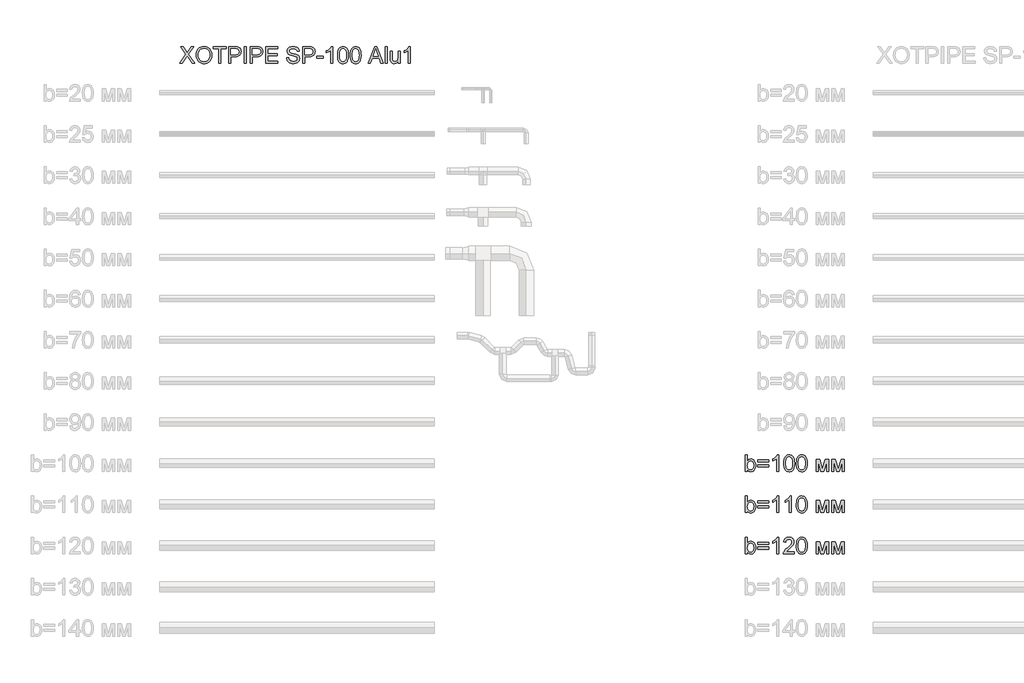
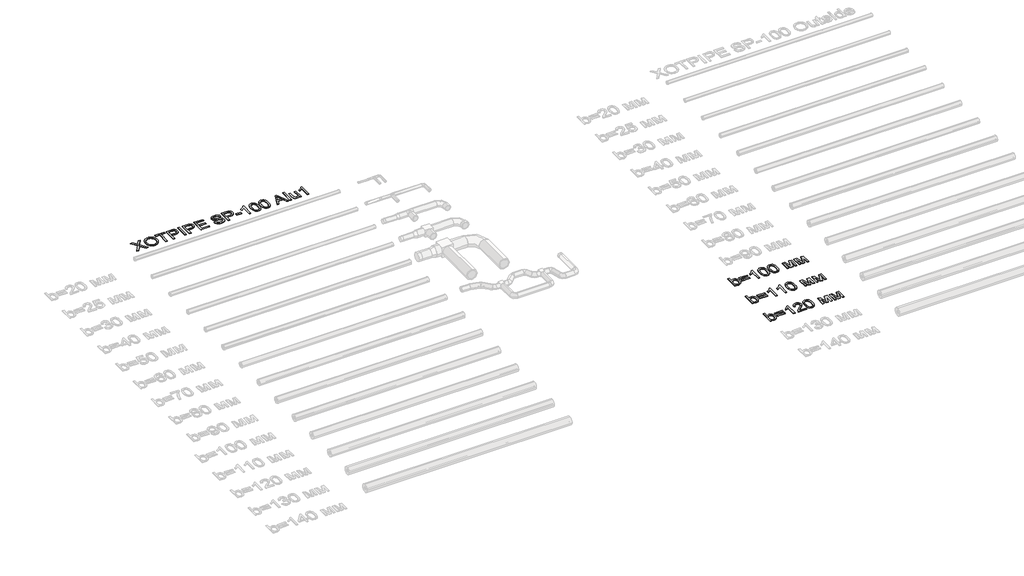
# One storey, part 50 of 86: 4 proxies.
"""IFC4 building model written with IfcOpenShell, lengths in millimetres."""

import ifcopenshell
import ifcopenshell.guid

model = None  # the IFC model being written
_history = None  # IfcOwnerHistory: only IFC2X3 demands one
_inside = {}  # id of a spatial element -> (the spatial element, [elements in it])
_under = {}  # id of a project, library or spatial element -> (it, [spatial elements below it])
_declared = {}  # id of a project -> (the project, [libraries it declares])
_typed = {}  # id of a type object -> (the type object, [elements of that type])
_made_of = {}  # id of a material, layer set ... -> (it, [elements and type objects made of it])


def new_model(schema):
    """Start an empty IFC model of exactly this schema.

    Asked for "IFC4X3", IfcOpenShell would pick the latest addendum, in which some entities
    have other attributes; the version numbers below select the first issue.
    IFC2X3 requires an IfcOwnerHistory on every rooted entity: one is made here for all.
    """
    global model, _history
    if schema == "IFC4X3":
        model = ifcopenshell.file(schema_version=(4, 3, 0, 0))
    else:
        model = ifcopenshell.file(schema=schema)
    _inside.clear()
    _under.clear()
    _declared.clear()
    _typed.clear()
    _made_of.clear()
    _history = None
    if model.schema == "IFC2X3":
        org = make("IfcOrganization", Name="unknown")
        user = make(
            "IfcPersonAndOrganization",
            ThePerson=make("IfcPerson", FamilyName="unknown"),
            TheOrganization=org,
        )
        app = make(
            "IfcApplication",
            ApplicationDeveloper=org,
            Version="unknown",
            ApplicationFullName="unknown",
            ApplicationIdentifier="unknown",
        )
        _history = make(
            "IfcOwnerHistory",
            OwningUser=user,
            OwningApplication=app,
            ChangeAction="ADDED",
            CreationDate=0,
        )
    return model


def make(cls, **values):
    """One entity of the class cls with the attributes given. An attribute that is None is left unset."""
    return model.create_entity(
        cls, **{name: value for name, value in values.items() if value is not None}
    )


def rooted(cls, **values):
    """An entity with a GlobalId (a new one), such as an element, a storey or a relation."""
    return make(cls, GlobalId=ifcopenshell.guid.new(), OwnerHistory=_history, **values)


def si_unit(unit_type, name, prefix=None):
    """IfcSIUnit, for example si_unit("LENGTHUNIT", "METRE", prefix="MILLI")."""
    return make("IfcSIUnit", UnitType=unit_type, Prefix=prefix, Name=name)


def assignment(units):
    """IfcUnitAssignment: the units of a project."""
    return None if units is None else make("IfcUnitAssignment", Units=units)


def point(xyz):
    """IfcCartesianPoint."""
    return None if xyz is None else make("IfcCartesianPoint", Coordinates=xyz)


def direction(xyz):
    """IfcDirection."""
    return None if xyz is None else make("IfcDirection", DirectionRatios=xyz)


def frame(location, z_axis=None, x_axis=None):
    """IfcAxis2Placement3D, a coordinate frame: its origin and axes. An axis left out is left unset."""
    return make(
        "IfcAxis2Placement3D",
        Location=point(location),
        Axis=direction(z_axis),
        RefDirection=direction(x_axis),
    )


def origin():
    """The frame at (0, 0, 0) with its axes left unset."""
    return frame((0.0, 0.0, 0.0))


def origin_with_axes():
    """The frame at (0, 0, 0) with the z axis (0, 0, 1) and the x axis (1, 0, 0) written out."""
    return frame((0.0, 0.0, 0.0), z_axis=(0.0, 0.0, 1.0), x_axis=(1.0, 0.0, 0.0))


def place(relative_to, where):
    """IfcLocalPlacement: puts the frame where relative to a parent placement (None: the world)."""
    return make(
        "IfcLocalPlacement", PlacementRelTo=relative_to, RelativePlacement=where
    )


def context(
    kind, dimensions, precision=None, world=None, true_north=None, identifier=None
):
    """IfcGeometricRepresentationContext, for example the 3D "Model" context."""
    return make(
        "IfcGeometricRepresentationContext",
        ContextIdentifier=identifier,
        ContextType=kind,
        CoordinateSpaceDimension=dimensions,
        Precision=precision,
        WorldCoordinateSystem=world,
        TrueNorth=true_north,
    )


def project(units=None, contexts=None):
    """IfcProject with its units and contexts."""
    return rooted(
        "IfcProject",
        Name="project",
        RepresentationContexts=contexts,
        UnitsInContext=assignment(units),
    )


def spatial(cls, under=None, at=None, **own):
    """A site, building, storey or space (cls), placed at a placement, below another one or the project."""
    s = rooted(cls, ObjectPlacement=at, **own)
    if under is not None:
        _under.setdefault(under.id(), (under, []))[1].append(s)
    return s


def polyline(points):
    """IfcPolyline through the points."""
    return make("IfcPolyline", Points=[point(p) for p in points])


def outline(outer, holes=None, kind="AREA"):
    """IfcArbitraryClosedProfileDef: a profile drawn as a closed curve; with holes, ...WithVoids."""
    if holes is None:
        return make("IfcArbitraryClosedProfileDef", ProfileType=kind, OuterCurve=outer)
    return make(
        "IfcArbitraryProfileDefWithVoids",
        ProfileType=kind,
        OuterCurve=outer,
        InnerCurves=holes,
    )


def extrude(swept, where, along, depth):
    """IfcExtrudedAreaSolid: the profile swept, set in the frame where, extruded along a direction by depth."""
    return make(
        "IfcExtrudedAreaSolid",
        SweptArea=swept,
        Position=where,
        ExtrudedDirection=direction(along),
        Depth=depth,
    )


def shape(context_of_items, identifier, shape_type, items):
    """IfcShapeRepresentation: the items that make up one representation, for example the "Body"."""
    return make(
        "IfcShapeRepresentation",
        ContextOfItems=context_of_items,
        RepresentationIdentifier=identifier,
        RepresentationType=shape_type,
        Items=items,
    )


def made_of(thing, what):
    """Note that an element or type object is made of a material, layer set ...; save() writes the relation."""
    if what is not None:
        _made_of.setdefault(what.id(), (what, []))[1].append(thing)
    return thing


def element(
    cls,
    number,
    at=None,
    inside=None,
    cuts=None,
    type_object=None,
    material=None,
    context=None,
    identifier="Body",
    shape_type=None,
    held_by="IfcProductDefinitionShape",
    body=None,
    shapes=None,
    **own,
):
    """One element of the class cls, such as IfcWall. Its Tag is "e" and its number.

    at: its placement. inside: the storey or other place that contains it. cuts: it is an
    opening in that element (IfcRelVoidsElement). A single representation is given by context,
    identifier, shape_type and body (its items); several are given by shapes. held_by: the class
    of the entity that holds the representations. save() writes the other relations.
    """
    e = rooted(cls, Tag="e%d" % number, ObjectPlacement=at, **own)
    if body is not None:
        shapes = [shape(context, identifier, shape_type, body)]
    if shapes is not None:
        e.Representation = make(held_by, Representations=shapes)
    if inside is not None:
        _inside.setdefault(inside.id(), (inside, []))[1].append(e)
    if cuts is not None:
        rooted(
            "IfcRelVoidsElement", RelatingBuildingElement=cuts, RelatedOpeningElement=e
        )
    if type_object is not None:
        _typed.setdefault(type_object.id(), (type_object, []))[1].append(e)
    return made_of(e, material)


def aggregate(whole, parts):
    """IfcRelAggregates: a whole, such as a stair, and the parts it consists of."""
    return rooted("IfcRelAggregates", RelatingObject=whole, RelatedObjects=parts)


def save(model, path):
    """Write the relations noted so far, then the file.

    IfcRelAggregates (storeys below a building ...), IfcRelContainedInSpatialStructure (elements
    in a storey), IfcRelDefinesByType, IfcRelAssociatesMaterial and IfcRelDeclares: one each for
    every whole, place, type object, material and project.
    """
    for whole, parts in _under.values():
        aggregate(whole, parts)
    for where, things in _inside.values():
        rooted(
            "IfcRelContainedInSpatialStructure",
            RelatedElements=things,
            RelatingStructure=where,
        )
    for kind, things in _typed.values():
        rooted("IfcRelDefinesByType", RelatedObjects=things, RelatingType=kind)
    for what, things in _made_of.values():
        rooted("IfcRelAssociatesMaterial", RelatedObjects=things, RelatingMaterial=what)
    for by, libraries in _declared.values():
        rooted("IfcRelDeclares", RelatingContext=by, RelatedDefinitions=libraries)
    model.write(path)


model = new_model("IFC4")

# Units and contexts
model_context = context("Model", 3, world=origin())
ifc_project = project(units=[si_unit("LENGTHUNIT", "METRE", prefix="MILLI")], contexts=[model_context])

# Site, building, storey
site = spatial("IfcSite", under=ifc_project)
building = spatial("IfcBuilding", under=site)
storey = spatial("IfcBuildingStorey", under=building, Name="Уровень 1", Elevation=0.0)

# Proxies
placement = place(None, origin())
element("IfcBuildingElementProxy", 1, Name="Текст модели 1", ObjectType="Текст модели 1", at=placement, inside=storey, context=model_context, shape_type="SweptSolid", body=[
    extrude(outline(polyline([(2015.370641, 30543.2937088), (2247.7249092, 30871.7387541), (2053.0417573, 31146.0315697), (2143.3935753, 31146.0315697), (2253.0224099, 30991.6682845), (2279.1788197, 30952.5624284), (2289.9577622, 30931.4827901), (2333.2206848, 30992.6983541), (2441.672297, 31146.0315697), (2533.3484902, 31146.0315697), (2338.6653384, 30870.8558373), (2571.0196065, 30543.2937088), (2480.6677885, 30543.2937088), (2325.8630449, 30761.6684611), (2293.6365821, 30806.9915229), (2258.1727578, 30757.2538772), (2107.0468342, 30543.2937088), (2015.370641, 30543.2937088)])), origin_with_axes(), (0.0, 0.0, 1.0), 20.0),
    extrude(outline(polyline([(2618.1085019, 30836.7163882), (2623.1300911, 30907.4141106), (2638.1948588, 30970.000035), (2663.302805, 31024.4741614), (2679.62297, 31048.6693004), (2698.4539296, 31070.8364899), (2741.5421083, 31107.8546156), (2790.4612166, 31134.2961341), (2845.2112546, 31150.1610451), (2905.7922221, 31155.4493488), (2946.342015, 31152.9661453), (2984.8500629, 31145.5165349), (3021.3163657, 31133.1005176), (3055.7409234, 31115.7180933), (3087.1580457, 31093.8934939), (3114.6020426, 31068.1509513), (3138.0729139, 31038.4904655), (3157.5706596, 31004.9120363), (3172.8929447, 30968.1790191), (3183.8374341, 30929.0547689), (3190.4041277, 30887.5392858), (3192.5930256, 30843.6325697), (3190.2891646, 30799.1464394), (3183.3775816, 30757.0699362), (3171.8582766, 30717.4030601), (3155.7312496, 30680.145811), (3135.3781783, 30646.2822733), (3111.18074, 30616.7965314), (3083.1389349, 30591.6885853), (3051.252763, 30570.9584348), (3016.7776215, 30554.7348388), (2980.9689078, 30543.146556), (2943.8266219, 30536.1935863), (2905.3507637, 30533.8759297), (2864.092798, 30536.4373081), (2825.0789124, 30544.1214433), (2788.309107, 30556.9283352), (2753.7833817, 30574.857984), (2722.4030475, 30597.2160122), (2695.0694153, 30623.3080428), (2671.782485, 30653.1340755), (2652.5422566, 30686.6941105), (2637.4774889, 30722.64078), (2626.7169406, 30759.6267161), (2620.2606116, 30797.6519188), (2618.1085019, 30836.7163882)]), holes=[polyline([(2693.4507345, 30835.9806242), (2697.2169264, 30786.0314463), (2708.5155022, 30741.6924688), (2727.3464618, 30702.9636918), (2753.7098053, 30669.8451151), (2785.7569256, 30643.3208233), (2821.6392157, 30624.3749005), (2861.3566756, 30613.0073469), (2904.9093053, 30609.2181623), (2949.2068961, 30613.0441351), (2989.3934055, 30624.5220533), (3025.4688337, 30643.6519171), (3057.4331805, 30670.4337263), (3083.603386, 30704.2512787), (3102.2963898, 30744.488372), (3113.5121922, 30791.145006), (3117.2507929, 30844.2211809), (3115.6505063, 30878.7009209), (3110.8496462, 30910.9181866), (3102.8482128, 30940.872978), (3091.6462061, 30968.5652952), (3077.3677861, 30993.6318547), (3060.1371132, 31015.7093729), (3039.9541872, 31034.7978499), (3016.8190083, 31050.8972857), (2991.4489462, 31063.6765866), (2964.5613709, 31072.8046586), (2936.1562823, 31078.2815018), (2906.2336805, 31080.1071162), (2864.1939655, 31076.5892446), (2825.189277, 31066.0356298), (2789.2196149, 31048.446272), (2756.2849793, 31023.8211709), (2728.7949972, 30990.9739073), (2709.1592957, 30948.7180616), (2697.3778748, 30897.0536339), (2693.4507345, 30835.9806242)])]), origin_with_axes(), (0.0, 0.0, 1.0), 20.0),
    extrude(outline(polyline([(3446.8730606, 30543.2937088), (3446.8730606, 31070.6893371), (3249.0997, 31070.6893371), (3249.0997, 31146.0315697), (3719.9886538, 31146.0315697), (3719.9886538, 31070.6893371), (3522.2152932, 31070.6893371), (3522.2152932, 30543.2937088), (3446.8730606, 30543.2937088)])), origin_with_axes(), (0.0, 0.0, 1.0), 20.0),
    extrude(outline(polyline([(3804.7486655, 30543.2937088), (3804.7486655, 31146.0315697), (4028.126613, 31146.0315697), (4080.1451271, 31144.5968299), (4118.1841254, 31140.2926106), (4158.3384452, 31129.5688504), (4191.3926425, 31112.1128497), (4218.0089048, 31087.1336623), (4238.8494198, 31053.8403417), (4252.3139009, 31014.5689387), (4256.8020612, 30971.655504), (4253.7716333, 30934.6557723), (4244.6803495, 30900.6174907), (4229.5282098, 30869.5406592), (4208.3152142, 30841.4252777), (4179.1927558, 30818.1199533), (4140.3122274, 30801.473293), (4091.6736291, 30791.4852968), (4033.2769609, 30788.1559648), (3880.0908981, 30788.1559648), (3880.0908981, 30543.2937088), (3804.7486655, 30543.2937088)]), holes=[polyline([(3880.0908981, 30863.4981974), (4037.6915449, 30863.4981974), (4073.9279214, 30865.2272428), (4104.4989152, 30870.4143789), (4129.4045263, 30879.0596058), (4148.6447546, 30891.1629234), (4163.0013495, 30906.4024351), (4173.2560601, 30924.456244), (4179.4088865, 30945.3243502), (4181.4598286, 30969.0067536), (4176.6221804, 31002.8518972), (4162.1092357, 31031.39954), (4139.7236162, 31052.8838485), (4111.2679439, 31065.5389892), (4082.2052663, 31069.4017501), (4035.9257113, 31070.6893371), (3880.0908981, 31070.6893371), (3880.0908981, 30863.4981974)])]), origin_with_axes(), (0.0, 0.0, 1.0), 20.0),
    extrude(outline(polyline([(4369.8154101, 30543.2937088), (4369.8154101, 31146.0315697), (4445.1576427, 31146.0315697), (4445.1576427, 30543.2937088), (4369.8154101, 30543.2937088)])), origin_with_axes(), (0.0, 0.0, 1.0), 20.0),
    extrude(outline(polyline([(4595.842108, 30543.2937088), (4595.842108, 31146.0315697), (4819.2200554, 31146.0315697), (4871.2385696, 31144.5968299), (4909.2775679, 31140.2926106), (4949.4318876, 31129.5688504), (4982.4860849, 31112.1128497), (5009.1023472, 31087.1336623), (5029.9428623, 31053.8403417), (5043.4073433, 31014.5689387), (5047.8955036, 30971.655504), (5044.8650757, 30934.6557723), (5035.7737919, 30900.6174907), (5020.6216522, 30869.5406592), (4999.4086567, 30841.4252777), (4970.2861982, 30818.1199533), (4931.4056699, 30801.473293), (4882.7670716, 30791.4852968), (4824.3704034, 30788.1559648), (4671.1843406, 30788.1559648), (4671.1843406, 30543.2937088), (4595.842108, 30543.2937088)]), holes=[polyline([(4671.1843406, 30863.4981974), (4828.7849873, 30863.4981974), (4865.0213638, 30865.2272428), (4895.5923576, 30870.4143789), (4920.4979687, 30879.0596058), (4939.7381971, 30891.1629234), (4954.0947919, 30906.4024351), (4964.3495025, 30924.456244), (4970.5023289, 30945.3243502), (4972.553271, 30969.0067536), (4967.7156228, 31002.8518972), (4953.2026781, 31031.39954), (4930.8170587, 31052.8838485), (4902.3613863, 31065.5389892), (4873.2987087, 31069.4017501), (4827.0191537, 31070.6893371), (4671.1843406, 31070.6893371), (4671.1843406, 30863.4981974)])]), origin_with_axes(), (0.0, 0.0, 1.0), 20.0),
    extrude(outline(polyline([(5151.4910735, 30543.2937088), (5151.4910735, 31146.0315697), (5584.708911, 31146.0315697), (5584.708911, 31070.6893371), (5226.8333061, 31070.6893371), (5226.8333061, 30891.7515346), (5565.8733528, 30891.7515346), (5565.8733528, 30816.409302), (5226.8333061, 30816.409302), (5226.8333061, 30618.6359414), (5594.1266901, 30618.6359414), (5594.1266901, 30543.2937088), (5151.4910735, 30543.2937088)])), origin_with_axes(), (0.0, 0.0, 1.0), 20.0),
    extrude(outline(polyline([(5914.3311787, 30750.4848485), (5989.6734113, 30750.4848485), (5998.3186382, 30708.6750597), (6013.953623, 30675.0690395), (6038.3441993, 30648.3975948), (6073.2562006, 30627.3915329), (6115.930512, 30613.761505), (6163.6080186, 30609.2181623), (6205.5833543, 30612.657859), (6242.3347656, 30622.976949), (6272.1148131, 30639.3109095), (6293.1760573, 30660.7952181), (6305.7024392, 30685.4617058), (6309.8778999, 30711.3422042), (6306.7509029, 30736.560515), (6297.3699121, 30758.3575232), (6278.3136247, 30776.953958), (6246.1607383, 30792.5705487), (6136.4583274, 30821.3389208), (6064.4454268, 30840.376814), (6018.3682069, 30858.4950023), (5980.8626375, 30883.8420717), (5954.2831634, 30914.5602183), (5938.4458435, 30949.9872545), (5933.1667368, 30989.4609925), (5934.7992132, 31011.8971957), (5939.6966422, 31033.5884379), (5947.859024, 31054.534719), (5959.2863585, 31074.736039), (5973.849887, 31093.3692621), (5991.4208508, 31109.6112522), (6011.9992499, 31123.4620093), (6035.5850843, 31134.9215334), (6088.5968798, 31150.3173949), (6147.274058, 31155.4493488), (6210.8440668, 31150.0782716), (6266.4678245, 31133.9650403), (6290.8032184, 31121.9628902), (6312.1587683, 31107.4407484), (6330.5344739, 31090.398615), (6345.9303354, 31070.8364899), (6358.2267911, 31049.3245902), (6367.3042793, 31026.4331331), (6373.1628001, 31002.1621184), (6375.8023534, 30976.5115463), (6300.4601208, 30976.5115463), (6295.4201375, 31000.5526347), (6286.6277578, 31021.4667261), (6274.0829818, 31039.2538206), (6257.7858094, 31053.9139181), (6237.432738, 31065.3734423), (6212.720265, 31073.5588166), (6183.6483903, 31078.4700413), (6150.217114, 31080.1071162), (6115.7189799, 31078.4884354), (6086.242435, 31073.632393), (6061.7874794, 31065.5389892), (6042.354113, 31054.2082237), (6027.5468627, 31040.5873928), (6016.9702553, 31025.6237927), (6010.6242909, 31009.3174232), (6008.5089694, 30991.6682845), (6010.0080886, 30976.4839552), (6014.505446, 30962.7159715), (6022.0010416, 30950.3643335), (6032.4948755, 30939.4290412), (6049.0127771, 30929.073163), (6075.0220342, 30918.6069203), (6155.5146147, 30897.343341), (6238.5823692, 30877.1466194), (6288.8350498, 30859.5250719), (6331.7852727, 30832.1914396), (6348.3905463, 30816.1241935), (6361.7492612, 30798.4566607), (6372.0177674, 30779.2808117), (6379.3524147, 30758.688617), (6385.2201325, 30713.2551906), (6383.5324739, 30689.6877503), (6378.4694979, 30666.8100887), (6370.0312046, 30644.6222058), (6358.2175941, 30623.1241018), (6343.2355998, 30603.1481094), (6325.2921555, 30585.5265618), (6304.3872611, 30570.259459), (6280.5209167, 30557.346801), (6254.3874994, 30547.0782948), (6226.6813867, 30539.7436475), (6166.5510746, 30533.8759297), (6128.0108371, 30535.4578223), (6092.7355522, 30540.2035), (6060.7252201, 30548.1129629), (6031.9798407, 30559.186211), (6006.3246701, 30573.4416383), (5983.5849643, 30590.897639), (5963.7607233, 30611.554213), (5946.8519471, 30635.4113604), (5933.2311162, 30661.6965289), (5923.2707112, 30689.6371665), (5916.970732, 30719.233273), (5914.3311787, 30750.4848485)])), origin_with_axes(), (0.0, 0.0, 1.0), 20.0),
    extrude(outline(polyline([(6498.2334814, 30543.2937088), (6498.2334814, 31146.0315697), (6721.6114289, 31146.0315697), (6773.629943, 31144.5968299), (6811.6689413, 31140.2926106), (6851.8232611, 31129.5688504), (6884.8774584, 31112.1128497), (6911.4937207, 31087.1336623), (6932.3342357, 31053.8403417), (6945.7987168, 31014.5689387), (6950.2868771, 30971.655504), (6947.2564492, 30934.6557723), (6938.1651654, 30900.6174907), (6923.0130257, 30869.5406592), (6901.8000301, 30841.4252777), (6872.6775717, 30818.1199533), (6833.7970433, 30801.473293), (6785.158445, 30791.4852968), (6726.7617768, 30788.1559648), (6573.575714, 30788.1559648), (6573.575714, 30543.2937088), (6498.2334814, 30543.2937088)]), holes=[polyline([(6573.575714, 30863.4981974), (6731.1763608, 30863.4981974), (6767.4127373, 30865.2272428), (6797.9837311, 30870.4143789), (6822.8893422, 30879.0596058), (6842.1295705, 30891.1629234), (6856.4861654, 30906.4024351), (6866.740876, 30924.456244), (6872.8937024, 30945.3243502), (6874.9446445, 30969.0067536), (6870.1069962, 31002.8518972), (6855.5940515, 31031.39954), (6833.2084321, 31052.8838485), (6804.7527598, 31065.5389892), (6775.6900822, 31069.4017501), (6729.4105272, 31070.6893371), (6573.575714, 31070.6893371), (6573.575714, 30863.4981974)])]), origin_with_axes(), (0.0, 0.0, 1.0), 20.0),
    extrude(outline(polyline([(7006.7935516, 30722.2315113), (7006.7935516, 30797.5737439), (7242.2380285, 30797.5737439), (7242.2380285, 30722.2315113), (7006.7935516, 30722.2315113)])), origin_with_axes(), (0.0, 0.0, 1.0), 20.0),
    extrude(outline(polyline([(7590.6958543, 30543.2937088), (7515.3536217, 30543.2937088), (7515.3536217, 31013.0054402), (7483.8997111, 30987.5664003), (7443.9845146, 30962.1641485), (7402.0827554, 30939.9624701), (7364.6691565, 30924.1251502), (7364.6691565, 30995.3471045), (7423.8429754, 31027.5367791), (7475.1073314, 31065.8332947), (7515.5191686, 31106.5578316), (7542.1354309, 31146.0315697), (7590.6958543, 31146.0315697), (7590.6958543, 30543.2937088)])), origin_with_axes(), (0.0, 0.0, 1.0), 20.0),
    extrude(outline(polyline([(7769.6336568, 30839.8065969), (7775.1702808, 30936.2836501), (7782.0910608, 30977.1967265), (7791.7801529, 31013.2261694), (7804.1961702, 31044.6662845), (7819.2977261, 31071.8113772), (7837.0848206, 31094.6614476), (7857.5574536, 31113.2164957), (7880.7846031, 31127.5730906), (7906.8352469, 31137.8278012), (7935.709385, 31143.9806276), (7967.4070174, 31146.0315697), (8013.8337252, 31141.1755274), (8055.4043906, 31126.6074004), (8090.1692392, 31102.8974058), (8116.1784962, 31070.6157607), (8135.8233948, 31030.0383766), (8151.4951677, 30981.4411651), (8161.7590754, 30919.7289604), (8165.180378, 30839.8065969), (8159.6989362, 30743.8813667), (8152.8471341, 30703.106246), (8143.2546111, 30667.1227884), (8130.9351627, 30635.6688778), (8115.9025847, 30608.4823983), (8098.156877, 30585.56335), (8077.6980395, 30566.9117329), (8054.4432989, 30552.458569), (8028.3098817, 30542.1348805), (7999.2977878, 30535.9406674), (7967.4070174, 30533.8759297), (7925.9099283, 30537.4627792), (7889.1217288, 30548.2233275), (7857.0424188, 30566.1575748), (7829.6719984, 30591.265521), (7803.4052239, 30636.6529621), (7784.6432422, 30693.2056218), (7773.3860531, 30760.9235001), (7769.6336568, 30839.8065969)]), holes=[polyline([(7844.9758894, 30839.9537497), (7847.1831813, 30774.456959), (7853.8050573, 30721.440565), (7864.8415171, 30680.9045676), (7880.2925609, 30652.848967), (7898.9809663, 30633.7604899), (7919.7295108, 30620.1258635), (7942.5381945, 30611.9450876), (7967.4070174, 30609.2181623), (7992.2758402, 30611.9542847), (8015.0845239, 30620.1626517), (8035.8330685, 30633.8432634), (8054.5214738, 30652.9961198), (8069.9725176, 30681.0977057), (8081.0089775, 30721.624506), (8087.6308534, 30774.5765206), (8089.8381454, 30839.9537497), (8087.7044298, 30903.7168965), (8081.3032831, 30955.79979), (8070.6347052, 30996.2024301), (8055.6986962, 31024.9248169), (8037.3229905, 31044.9467945), (8016.3353227, 31059.248207), (7992.7356927, 31067.8290546), (7966.5241006, 31070.6893371), (7941.7840364, 31068.1693454), (7919.3616288, 31060.6093704), (7899.2568778, 31048.0094121), (7881.4697833, 31030.3694704), (7865.5037047, 30999.0995008), (7854.0993628, 30956.9402242), (7847.2567577, 30903.8916405), (7844.9758894, 30839.9537497)])]), origin_with_axes(), (0.0, 0.0, 1.0), 20.0),
    extrude(outline(polyline([(8231.1048315, 30839.8065969), (8236.6414555, 30936.2836501), (8243.5622356, 30977.1967265), (8253.2513276, 31013.2261694), (8265.667345, 31044.6662845), (8280.7689009, 31071.8113772), (8298.5559953, 31094.6614476), (8319.0286284, 31113.2164957), (8342.2557778, 31127.5730906), (8368.3064216, 31137.8278012), (8397.1805597, 31143.9806276), (8428.8781921, 31146.0315697), (8475.3048999, 31141.1755274), (8516.8755654, 31126.6074004), (8551.6404139, 31102.8974058), (8577.649671, 31070.6157607), (8597.2945695, 31030.0383766), (8612.9663425, 30981.4411651), (8623.2302502, 30919.7289604), (8626.6515527, 30839.8065969), (8621.170111, 30743.8813667), (8614.3183088, 30703.106246), (8604.7257858, 30667.1227884), (8592.4063375, 30635.6688778), (8577.3737595, 30608.4823983), (8559.6280517, 30585.56335), (8539.1692143, 30566.9117329), (8515.9144736, 30552.458569), (8489.7810564, 30542.1348805), (8460.7689626, 30535.9406674), (8428.8781921, 30533.8759297), (8387.3811031, 30537.4627792), (8350.5929035, 30548.2233275), (8318.5135936, 30566.1575748), (8291.1431731, 30591.265521), (8264.8763987, 30636.6529621), (8246.1144169, 30693.2056218), (8234.8572279, 30760.9235001), (8231.1048315, 30839.8065969)]), holes=[polyline([(8306.4470641, 30839.9537497), (8308.6543561, 30774.456959), (8315.276232, 30721.440565), (8326.3126919, 30680.9045676), (8341.7637357, 30652.848967), (8360.452141, 30633.7604899), (8381.2006855, 30620.1258635), (8404.0093692, 30611.9450876), (8428.8781921, 30609.2181623), (8453.747015, 30611.9542847), (8476.5556987, 30620.1626517), (8497.3042432, 30633.8432634), (8515.9926486, 30652.9961198), (8531.4436924, 30681.0977057), (8542.4801522, 30721.624506), (8549.1020281, 30774.5765206), (8551.3093201, 30839.9537497), (8549.1756045, 30903.7168965), (8542.7744578, 30955.79979), (8532.10588, 30996.2024301), (8517.169871, 31024.9248169), (8498.7941653, 31044.9467945), (8477.8064975, 31059.248207), (8454.2068675, 31067.8290546), (8427.9952753, 31070.6893371), (8403.2552111, 31068.1693454), (8380.8328035, 31060.6093704), (8360.7280525, 31048.0094121), (8342.940958, 31030.3694704), (8326.9748794, 30999.0995008), (8315.5705376, 30956.9402242), (8308.7279325, 30903.8916405), (8306.4470641, 30839.9537497)])]), origin_with_axes(), (0.0, 0.0, 1.0), 20.0),
    extrude(outline(polyline([(8886.0819357, 30543.2937088), (9126.6767606, 31146.0315697), (9190.8353805, 31146.0315697), (9431.4302054, 30543.2937088), (9351.8205416, 30543.2937088), (9282.8058793, 30731.6492903), (9034.559109, 30731.6492903), (8965.6915995, 30543.2937088), (8886.0819357, 30543.2937088)]), holes=[polyline([(9062.223835, 30806.9915229), (9255.2883061, 30806.9915229), (9200.9889236, 30955.1743906), (9158.7560705, 31070.6893371), (9121.232107, 30968.1238368), (9062.223835, 30806.9915229)])]), origin_with_axes(), (0.0, 0.0, 1.0), 20.0),
    extrude(outline(polyline([(9502.5050068, 30543.2937088), (9502.5050068, 31146.0315697), (9577.8472394, 31146.0315697), (9577.8472394, 30543.2937088), (9502.5050068, 30543.2937088)])), origin_with_axes(), (0.0, 0.0, 1.0), 20.0),
    extrude(outline(polyline([(9973.3939607, 30543.2937088), (9973.3939607, 30619.3717054), (9946.1339048, 30581.9673035), (9914.3856886, 30555.2498736), (9878.1493121, 30539.2194157), (9837.4247752, 30533.8759297), (9800.7285462, 30537.6283261), (9766.570703, 30548.8855151), (9737.9126955, 30565.8080869), (9717.715974, 30586.5566314), (9704.1227343, 30611.7565481), (9695.2751723, 30642.0332363), (9690.8605884, 30712.0779682), (9690.8605884, 30985.9293254), (9766.202821, 30985.9293254), (9766.202821, 30747.5417925), (9767.3432552, 30699.8642859), (9770.7645577, 30670.7280319), (9781.7458353, 30645.105051), (9800.5629993, 30625.6256993), (9825.9652511, 30613.3200466), (9856.7017918, 30609.2181623), (9889.2041661, 30613.4120171), (9919.609613, 30625.9935813), (9944.6807709, 30645.8040268), (9961.1802784, 30671.6845251), (9970.3405401, 30707.1299554), (9973.3939607, 30755.6351964), (9973.3939607, 30985.9293254), (10048.7361933, 30985.9293254), (10048.7361933, 30543.2937088), (9973.3939607, 30543.2937088)])), origin_with_axes(), (0.0, 0.0, 1.0), 20.0),
    extrude(outline(polyline([(10416.0295773, 30543.2937088), (10340.6873446, 30543.2937088), (10340.6873446, 31013.0054402), (10309.2334341, 30987.5664003), (10269.3182376, 30962.1641485), (10227.4164783, 30939.9624701), (10190.0028794, 30924.1251502), (10190.0028794, 30995.3471045), (10249.1766983, 31027.5367791), (10300.4410544, 31065.8332947), (10340.8528915, 31106.5578316), (10367.4691539, 31146.0315697), (10416.0295773, 31146.0315697), (10416.0295773, 30543.2937088)])), origin_with_axes(), (0.0, 0.0, 1.0), 20.0),
])
element("IfcBuildingElementProxy", 2, Name="Текст модели 1", ObjectType="Текст модели 1", at=placement, inside=storey, context=model_context, shape_type="SweptSolid", body=[
    extrude(outline(polyline([(22698.159624, 15669.2937088), (22622.8173914, 15669.2937088), (22622.8173914, 16272.0315697), (22698.159624, 16272.0315697), (22698.159624, 16048.5064694), (22722.9364764, 16080.3742473), (22750.9139022, 16103.1369457), (22782.0919012, 16116.7945648), (22816.4704737, 16121.3471045), (22855.2820242, 16117.2452202), (22891.9598591, 16104.9395675), (22924.4070511, 16085.2026984), (22950.5266727, 16058.8071653), (22970.9993058, 16026.0104854), (22986.5055319, 15987.0701762), (22996.2727988, 15943.6049185), (22999.5285545, 15897.233393), (22996.1578357, 15843.7249568), (22986.0456794, 15796.6544555), (22969.1920855, 15756.0218892), (22945.597054, 15721.8272577), (22917.2747389, 15694.7235517), (22886.2392941, 15675.3637617), (22852.4907195, 15663.7478877), (22816.0290153, 15659.8759297), (22780.5192057, 15664.8699278), (22749.037704, 15679.8519221), (22721.5845101, 15704.8219125), (22698.159624, 15739.7798991), (22698.159624, 15669.2937088)]), holes=[polyline([(22698.159624, 15893.7017259), (22703.309972, 15830.8674811), (22709.7479069, 15807.065516), (22718.7610158, 15788.3403224), (22737.0171598, 15765.0993774), (22758.2347539, 15748.4987024), (22782.413798, 15738.5382973), (22809.5542922, 15735.2181623), (22832.0870644, 15737.6645776), (22853.037944, 15745.0038234), (22872.4069311, 15757.2358997), (22890.1940255, 15774.3608066), (22905.0656552, 15796.3325588), (22915.6882478, 15823.105171), (22922.0618034, 15854.6786432), (22924.1863219, 15891.0529755), (22922.1491753, 15928.1170865), (22916.0377357, 15959.9940614), (22905.8520029, 15986.6839001), (22891.5919771, 16008.1866028), (22874.4440776, 16024.7320955), (22855.5947239, 16036.5503046), (22835.0439159, 16043.64123), (22812.7916537, 16046.0048719), (22790.2588815, 16043.5584566), (22769.3080019, 16036.2192108), (22749.9390149, 16023.9871344), (22732.1519204, 16006.8622276), (22717.2802907, 15985.1112046), (22706.6576981, 15959.00078), (22700.2841426, 15928.5309538), (22698.159624, 15893.7017259)])]), origin_with_axes(), (0.0, 0.0, 1.0), 20.0),
    extrude(outline(polyline([(23470.4175083, 16017.7515346), (23074.8707871, 16017.7515346), (23074.8707871, 16093.0937672), (23470.4175083, 16093.0937672), (23470.4175083, 16017.7515346)])), origin_with_axes(), (0.0, 0.0, 1.0), 20.0),
    extrude(outline(polyline([(23470.4175083, 15838.8137322), (23074.8707871, 15838.8137322), (23074.8707871, 15914.1559648), (23470.4175083, 15914.1559648), (23470.4175083, 15838.8137322)])), origin_with_axes(), (0.0, 0.0, 1.0), 20.0),
    extrude(outline(polyline([(23837.7108923, 15669.2937088), (23762.3686597, 15669.2937088), (23762.3686597, 16139.0054402), (23730.9147491, 16113.5664003), (23690.9995526, 16088.1641485), (23649.0977934, 16065.9624701), (23611.6841945, 16050.1251502), (23611.6841945, 16121.3471045), (23670.8580134, 16153.5367791), (23722.1223694, 16191.8332947), (23762.5342066, 16232.5578316), (23789.1504689, 16272.0315697), (23837.7108923, 16272.0315697), (23837.7108923, 15669.2937088)])), origin_with_axes(), (0.0, 0.0, 1.0), 20.0),
    extrude(outline(polyline([(24016.6486948, 15965.8065969), (24022.1853188, 16062.2836501), (24029.1060988, 16103.1967265), (24038.7951909, 16139.2261694), (24051.2112082, 16170.6662845), (24066.3127641, 16197.8113772), (24084.0998586, 16220.6614476), (24104.5724916, 16239.2164957), (24127.7996411, 16253.5730906), (24153.8502849, 16263.8278012), (24182.724423, 16269.9806276), (24214.4220554, 16272.0315697), (24260.8487632, 16267.1755274), (24302.4194286, 16252.6074004), (24337.1842772, 16228.8974058), (24363.1935342, 16196.6157607), (24382.8384328, 16156.0383766), (24398.5102058, 16107.4411651), (24408.7741134, 16045.7289604), (24412.195416, 15965.8065969), (24406.7139742, 15869.8813667), (24399.8621721, 15829.106246), (24390.2696491, 15793.1227884), (24377.9502007, 15761.6688778), (24362.9176227, 15734.4823983), (24345.171915, 15711.56335), (24324.7130775, 15692.9117329), (24301.4583369, 15678.458569), (24275.3249197, 15668.1348805), (24246.3128258, 15661.9406674), (24214.4220554, 15659.8759297), (24172.9249663, 15663.4627792), (24136.1367668, 15674.2233275), (24104.0574568, 15692.1575748), (24076.6870364, 15717.265521), (24050.4202619, 15762.6529621), (24031.6582802, 15819.2056218), (24020.4010911, 15886.9235001), (24016.6486948, 15965.8065969)]), holes=[polyline([(24091.9909274, 15965.9537497), (24094.1982193, 15900.456959), (24100.8200953, 15847.440565), (24111.8565551, 15806.9045676), (24127.3075989, 15778.848967), (24145.9960043, 15759.7604899), (24166.7445488, 15746.1258635), (24189.5532325, 15737.9450876), (24214.4220554, 15735.2181623), (24239.2908782, 15737.9542847), (24262.0995619, 15746.1626517), (24282.8481065, 15759.8432634), (24301.5365118, 15778.9961198), (24316.9875556, 15807.0977057), (24328.0240155, 15847.624506), (24334.6458914, 15900.5765206), (24336.8531834, 15965.9537497), (24334.7194678, 16029.7168965), (24328.3183211, 16081.79979), (24317.6497432, 16122.2024301), (24302.7137342, 16150.9248169), (24284.3380285, 16170.9467945), (24263.3503607, 16185.248207), (24239.7507307, 16193.8290546), (24213.5391386, 16196.6893371), (24188.7990744, 16194.1693454), (24166.3766668, 16186.6093704), (24146.2719158, 16174.0094121), (24128.4848213, 16156.3694704), (24112.5187427, 16125.0995008), (24101.1144009, 16082.9402242), (24094.2717957, 16029.8916405), (24091.9909274, 15965.9537497)])]), origin_with_axes(), (0.0, 0.0, 1.0), 20.0),
    extrude(outline(polyline([(24478.1198695, 15965.8065969), (24483.6564935, 16062.2836501), (24490.5772736, 16103.1967265), (24500.2663656, 16139.2261694), (24512.682383, 16170.6662845), (24527.7839389, 16197.8113772), (24545.5710333, 16220.6614476), (24566.0436664, 16239.2164957), (24589.2708158, 16253.5730906), (24615.3214596, 16263.8278012), (24644.1955977, 16269.9806276), (24675.8932301, 16272.0315697), (24722.3199379, 16267.1755274), (24763.8906034, 16252.6074004), (24798.6554519, 16228.8974058), (24824.664709, 16196.6157607), (24844.3096075, 16156.0383766), (24859.9813805, 16107.4411651), (24870.2452882, 16045.7289604), (24873.6665907, 15965.8065969), (24868.185149, 15869.8813667), (24861.3333468, 15829.106246), (24851.7408238, 15793.1227884), (24839.4213755, 15761.6688778), (24824.3887975, 15734.4823983), (24806.6430897, 15711.56335), (24786.1842523, 15692.9117329), (24762.9295116, 15678.458569), (24736.7960944, 15668.1348805), (24707.7840006, 15661.9406674), (24675.8932301, 15659.8759297), (24634.3961411, 15663.4627792), (24597.6079415, 15674.2233275), (24565.5286316, 15692.1575748), (24538.1582111, 15717.265521), (24511.8914367, 15762.6529621), (24493.1294549, 15819.2056218), (24481.8722659, 15886.9235001), (24478.1198695, 15965.8065969)]), holes=[polyline([(24553.4621021, 15965.9537497), (24555.6693941, 15900.456959), (24562.29127, 15847.440565), (24573.3277299, 15806.9045676), (24588.7787737, 15778.848967), (24607.467179, 15759.7604899), (24628.2157235, 15746.1258635), (24651.0244072, 15737.9450876), (24675.8932301, 15735.2181623), (24700.762053, 15737.9542847), (24723.5707367, 15746.1626517), (24744.3192812, 15759.8432634), (24763.0076866, 15778.9961198), (24778.4587304, 15807.0977057), (24789.4951902, 15847.624506), (24796.1170661, 15900.5765206), (24798.3243581, 15965.9537497), (24796.1906425, 16029.7168965), (24789.7894958, 16081.79979), (24779.120918, 16122.2024301), (24764.184909, 16150.9248169), (24745.8092033, 16170.9467945), (24724.8215355, 16185.248207), (24701.2219055, 16193.8290546), (24675.0103133, 16196.6893371), (24650.2702492, 16194.1693454), (24627.8478415, 16186.6093704), (24607.7430905, 16174.0094121), (24589.955996, 16156.3694704), (24573.9899175, 16125.0995008), (24562.5855756, 16082.9402242), (24555.7429705, 16029.8916405), (24553.4621021, 15965.9537497)])]), origin_with_axes(), (0.0, 0.0, 1.0), 20.0),
    extrude(outline(polyline([(25193.8710793, 16111.9293254), (25323.5126944, 16111.9293254), (25423.4294443, 15757.5853876), (25531.1452925, 16111.9293254), (25655.3422541, 16111.9293254), (25655.3422541, 15669.2937088), (25580.0000215, 15669.2937088), (25580.0000215, 16025.6977857), (25471.6955621, 15669.2937088), (25372.8088818, 15669.2937088), (25269.2133119, 16042.7675103), (25269.2133119, 15669.2937088), (25193.8710793, 15669.2937088), (25193.8710793, 16111.9293254)])), origin_with_axes(), (0.0, 0.0, 1.0), 20.0),
    extrude(outline(polyline([(25768.355603, 16111.9293254), (25897.9972181, 16111.9293254), (25997.913968, 15757.5853876), (26105.6298162, 16111.9293254), (26229.8267777, 16111.9293254), (26229.8267777, 15669.2937088), (26154.4845451, 15669.2937088), (26154.4845451, 16025.6977857), (26046.1800857, 15669.2937088), (25947.2934054, 15669.2937088), (25843.6978356, 16042.7675103), (25843.6978356, 15669.2937088), (25768.355603, 15669.2937088), (25768.355603, 16111.9293254)])), origin_with_axes(), (0.0, 0.0, 1.0), 20.0),
])
element("IfcBuildingElementProxy", 3, Name="Текст модели 1", ObjectType="Текст модели 1", at=placement, inside=storey, context=model_context, shape_type="SweptSolid", body=[
    extrude(outline(polyline([(22698.159624, 14169.2937088), (22622.8173914, 14169.2937088), (22622.8173914, 14772.0315697), (22698.159624, 14772.0315697), (22698.159624, 14548.5064694), (22722.9364764, 14580.3742473), (22750.9139022, 14603.1369457), (22782.0919012, 14616.7945648), (22816.4704737, 14621.3471045), (22855.2820242, 14617.2452202), (22891.9598591, 14604.9395675), (22924.4070511, 14585.2026984), (22950.5266727, 14558.8071653), (22970.9993058, 14526.0104854), (22986.5055319, 14487.0701762), (22996.2727988, 14443.6049185), (22999.5285545, 14397.233393), (22996.1578357, 14343.7249568), (22986.0456794, 14296.6544555), (22969.1920855, 14256.0218892), (22945.597054, 14221.8272577), (22917.2747389, 14194.7235517), (22886.2392941, 14175.3637617), (22852.4907195, 14163.7478877), (22816.0290153, 14159.8759297), (22780.5192057, 14164.8699278), (22749.037704, 14179.8519221), (22721.5845101, 14204.8219125), (22698.159624, 14239.7798991), (22698.159624, 14169.2937088)]), holes=[polyline([(22698.159624, 14393.7017259), (22703.309972, 14330.8674811), (22709.7479069, 14307.065516), (22718.7610158, 14288.3403224), (22737.0171598, 14265.0993774), (22758.2347539, 14248.4987024), (22782.413798, 14238.5382973), (22809.5542922, 14235.2181623), (22832.0870644, 14237.6645776), (22853.037944, 14245.0038234), (22872.4069311, 14257.2358997), (22890.1940255, 14274.3608066), (22905.0656552, 14296.3325588), (22915.6882478, 14323.105171), (22922.0618034, 14354.6786432), (22924.1863219, 14391.0529755), (22922.1491753, 14428.1170865), (22916.0377357, 14459.9940614), (22905.8520029, 14486.6839001), (22891.5919771, 14508.1866028), (22874.4440776, 14524.7320955), (22855.5947239, 14536.5503046), (22835.0439159, 14543.64123), (22812.7916537, 14546.0048719), (22790.2588815, 14543.5584566), (22769.3080019, 14536.2192108), (22749.9390149, 14523.9871344), (22732.1519204, 14506.8622276), (22717.2802907, 14485.1112046), (22706.6576981, 14459.00078), (22700.2841426, 14428.5309538), (22698.159624, 14393.7017259)])]), origin_with_axes(), (0.0, 0.0, 1.0), 20.0),
    extrude(outline(polyline([(23470.4175083, 14517.7515346), (23074.8707871, 14517.7515346), (23074.8707871, 14593.0937672), (23470.4175083, 14593.0937672), (23470.4175083, 14517.7515346)])), origin_with_axes(), (0.0, 0.0, 1.0), 20.0),
    extrude(outline(polyline([(23470.4175083, 14338.8137322), (23074.8707871, 14338.8137322), (23074.8707871, 14414.1559648), (23470.4175083, 14414.1559648), (23470.4175083, 14338.8137322)])), origin_with_axes(), (0.0, 0.0, 1.0), 20.0),
    extrude(outline(polyline([(23837.7108923, 14169.2937088), (23762.3686597, 14169.2937088), (23762.3686597, 14639.0054402), (23730.9147491, 14613.5664003), (23690.9995526, 14588.1641485), (23649.0977934, 14565.9624701), (23611.6841945, 14550.1251502), (23611.6841945, 14621.3471045), (23670.8580134, 14653.5367791), (23722.1223694, 14691.8332947), (23762.5342066, 14732.5578316), (23789.1504689, 14772.0315697), (23837.7108923, 14772.0315697), (23837.7108923, 14169.2937088)])), origin_with_axes(), (0.0, 0.0, 1.0), 20.0),
    extrude(outline(polyline([(24299.1820671, 14169.2937088), (24223.8398344, 14169.2937088), (24223.8398344, 14639.0054402), (24192.3859239, 14613.5664003), (24152.4707274, 14588.1641485), (24110.5689681, 14565.9624701), (24073.1553692, 14550.1251502), (24073.1553692, 14621.3471045), (24132.3291881, 14653.5367791), (24183.5935442, 14691.8332947), (24224.0053813, 14732.5578316), (24250.6216437, 14772.0315697), (24299.1820671, 14772.0315697), (24299.1820671, 14169.2937088)])), origin_with_axes(), (0.0, 0.0, 1.0), 20.0),
    extrude(outline(polyline([(24478.1198695, 14465.8065969), (24483.6564935, 14562.2836501), (24490.5772736, 14603.1967265), (24500.2663656, 14639.2261694), (24512.682383, 14670.6662845), (24527.7839389, 14697.8113772), (24545.5710333, 14720.6614476), (24566.0436664, 14739.2164957), (24589.2708158, 14753.5730906), (24615.3214596, 14763.8278012), (24644.1955977, 14769.9806276), (24675.8932301, 14772.0315697), (24722.3199379, 14767.1755274), (24763.8906034, 14752.6074004), (24798.6554519, 14728.8974058), (24824.664709, 14696.6157607), (24844.3096075, 14656.0383766), (24859.9813805, 14607.4411651), (24870.2452882, 14545.7289604), (24873.6665907, 14465.8065969), (24868.185149, 14369.8813667), (24861.3333468, 14329.106246), (24851.7408238, 14293.1227884), (24839.4213755, 14261.6688778), (24824.3887975, 14234.4823983), (24806.6430897, 14211.56335), (24786.1842523, 14192.9117329), (24762.9295116, 14178.458569), (24736.7960944, 14168.1348805), (24707.7840006, 14161.9406674), (24675.8932301, 14159.8759297), (24634.3961411, 14163.4627792), (24597.6079415, 14174.2233275), (24565.5286316, 14192.1575748), (24538.1582111, 14217.265521), (24511.8914367, 14262.6529621), (24493.1294549, 14319.2056218), (24481.8722659, 14386.9235001), (24478.1198695, 14465.8065969)]), holes=[polyline([(24553.4621021, 14465.9537497), (24555.6693941, 14400.456959), (24562.29127, 14347.440565), (24573.3277299, 14306.9045676), (24588.7787737, 14278.848967), (24607.467179, 14259.7604899), (24628.2157235, 14246.1258635), (24651.0244072, 14237.9450876), (24675.8932301, 14235.2181623), (24700.762053, 14237.9542847), (24723.5707367, 14246.1626517), (24744.3192812, 14259.8432634), (24763.0076866, 14278.9961198), (24778.4587304, 14307.0977057), (24789.4951902, 14347.624506), (24796.1170661, 14400.5765206), (24798.3243581, 14465.9537497), (24796.1906425, 14529.7168965), (24789.7894958, 14581.79979), (24779.120918, 14622.2024301), (24764.184909, 14650.9248169), (24745.8092033, 14670.9467945), (24724.8215355, 14685.248207), (24701.2219055, 14693.8290546), (24675.0103133, 14696.6893371), (24650.2702492, 14694.1693454), (24627.8478415, 14686.6093704), (24607.7430905, 14674.0094121), (24589.955996, 14656.3694704), (24573.9899175, 14625.0995008), (24562.5855756, 14582.9402242), (24555.7429705, 14529.8916405), (24553.4621021, 14465.9537497)])]), origin_with_axes(), (0.0, 0.0, 1.0), 20.0),
    extrude(outline(polyline([(25193.8710793, 14611.9293254), (25323.5126944, 14611.9293254), (25423.4294443, 14257.5853876), (25531.1452925, 14611.9293254), (25655.3422541, 14611.9293254), (25655.3422541, 14169.2937088), (25580.0000215, 14169.2937088), (25580.0000215, 14525.6977857), (25471.6955621, 14169.2937088), (25372.8088818, 14169.2937088), (25269.2133119, 14542.7675103), (25269.2133119, 14169.2937088), (25193.8710793, 14169.2937088), (25193.8710793, 14611.9293254)])), origin_with_axes(), (0.0, 0.0, 1.0), 20.0),
    extrude(outline(polyline([(25768.355603, 14611.9293254), (25897.9972181, 14611.9293254), (25997.913968, 14257.5853876), (26105.6298162, 14611.9293254), (26229.8267777, 14611.9293254), (26229.8267777, 14169.2937088), (26154.4845451, 14169.2937088), (26154.4845451, 14525.6977857), (26046.1800857, 14169.2937088), (25947.2934054, 14169.2937088), (25843.6978356, 14542.7675103), (25843.6978356, 14169.2937088), (25768.355603, 14169.2937088), (25768.355603, 14611.9293254)])), origin_with_axes(), (0.0, 0.0, 1.0), 20.0),
])
element("IfcBuildingElementProxy", 4, Name="Текст модели 1", ObjectType="Текст модели 1", at=placement, inside=storey, context=model_context, shape_type="SweptSolid", body=[
    extrude(outline(polyline([(22698.159624, 12669.2937088), (22622.8173914, 12669.2937088), (22622.8173914, 13272.0315697), (22698.159624, 13272.0315697), (22698.159624, 13048.5064694), (22722.9364764, 13080.3742473), (22750.9139022, 13103.1369457), (22782.0919012, 13116.7945648), (22816.4704737, 13121.3471045), (22855.2820242, 13117.2452202), (22891.9598591, 13104.9395675), (22924.4070511, 13085.2026984), (22950.5266727, 13058.8071653), (22970.9993058, 13026.0104854), (22986.5055319, 12987.0701762), (22996.2727988, 12943.6049185), (22999.5285545, 12897.233393), (22996.1578357, 12843.7249568), (22986.0456794, 12796.6544555), (22969.1920855, 12756.0218892), (22945.597054, 12721.8272577), (22917.2747389, 12694.7235517), (22886.2392941, 12675.3637617), (22852.4907195, 12663.7478877), (22816.0290153, 12659.8759297), (22780.5192057, 12664.8699278), (22749.037704, 12679.8519221), (22721.5845101, 12704.8219125), (22698.159624, 12739.7798991), (22698.159624, 12669.2937088)]), holes=[polyline([(22698.159624, 12893.7017259), (22703.309972, 12830.8674811), (22709.7479069, 12807.065516), (22718.7610158, 12788.3403224), (22737.0171598, 12765.0993774), (22758.2347539, 12748.4987024), (22782.413798, 12738.5382973), (22809.5542922, 12735.2181623), (22832.0870644, 12737.6645776), (22853.037944, 12745.0038234), (22872.4069311, 12757.2358997), (22890.1940255, 12774.3608066), (22905.0656552, 12796.3325588), (22915.6882478, 12823.105171), (22922.0618034, 12854.6786432), (22924.1863219, 12891.0529755), (22922.1491753, 12928.1170865), (22916.0377357, 12959.9940614), (22905.8520029, 12986.6839001), (22891.5919771, 13008.1866028), (22874.4440776, 13024.7320955), (22855.5947239, 13036.5503046), (22835.0439159, 13043.64123), (22812.7916537, 13046.0048719), (22790.2588815, 13043.5584566), (22769.3080019, 13036.2192108), (22749.9390149, 13023.9871344), (22732.1519204, 13006.8622276), (22717.2802907, 12985.1112046), (22706.6576981, 12959.00078), (22700.2841426, 12928.5309538), (22698.159624, 12893.7017259)])]), origin_with_axes(), (0.0, 0.0, 1.0), 20.0),
    extrude(outline(polyline([(23470.4175083, 13017.7515346), (23074.8707871, 13017.7515346), (23074.8707871, 13093.0937672), (23470.4175083, 13093.0937672), (23470.4175083, 13017.7515346)])), origin_with_axes(), (0.0, 0.0, 1.0), 20.0),
    extrude(outline(polyline([(23470.4175083, 12838.8137322), (23074.8707871, 12838.8137322), (23074.8707871, 12914.1559648), (23470.4175083, 12914.1559648), (23470.4175083, 12838.8137322)])), origin_with_axes(), (0.0, 0.0, 1.0), 20.0),
    extrude(outline(polyline([(23837.7108923, 12669.2937088), (23762.3686597, 12669.2937088), (23762.3686597, 13139.0054402), (23730.9147491, 13113.5664003), (23690.9995526, 13088.1641485), (23649.0977934, 13065.9624701), (23611.6841945, 13050.1251502), (23611.6841945, 13121.3471045), (23670.8580134, 13153.5367791), (23722.1223694, 13191.8332947), (23762.5342066, 13232.5578316), (23789.1504689, 13272.0315697), (23837.7108923, 13272.0315697), (23837.7108923, 12669.2937088)])), origin_with_axes(), (0.0, 0.0, 1.0), 20.0),
    extrude(outline(polyline([(24402.7776369, 12744.6359414), (24402.7776369, 12669.2937088), (24007.2309157, 12669.2937088), (24008.8863847, 12695.8180007), (24015.3243196, 12721.2386465), (24033.9023603, 12761.8344247), (24061.0888398, 12801.2161923), (24100.4154251, 12842.4373698), (24155.4137833, 12888.5513779), (24236.7157043, 12960.7666136), (24285.4968568, 13014.0727147), (24299.724693, 13035.8513288), (24309.8874331, 13057.3356373), (24315.9850772, 13078.5256402), (24318.0176252, 13099.4213376), (24316.1000403, 13119.0800317), (24310.3472856, 13137.1476362), (24300.7593611, 13153.624151), (24287.3362668, 13168.5095763), (24270.8229638, 13180.8382216), (24251.964413, 13189.6443969), (24230.7606145, 13194.928102), (24207.2115683, 13196.6893371), (24182.4025262, 13194.9694888), (24160.2146434, 13189.8099438), (24140.6479198, 13181.2107021), (24123.7023554, 13169.1717638), (24109.9941525, 13154.0977991), (24100.1395136, 13136.3934781), (24094.1384385, 13116.0588008), (24091.9909274, 13093.0937672), (24016.6486948, 13102.5115463), (24023.1280164, 13141.4058703), (24034.9140358, 13175.3889696), (24052.006753, 13204.4608442), (24074.406168, 13228.6214943), (24101.597246, 13247.6134023), (24133.0649521, 13261.1790508), (24168.8092865, 13269.31844), (24208.830249, 13272.0315697), (24249.2098965, 13269.0149373), (24285.1473689, 13259.9650403), (24316.6426662, 13244.8818785), (24343.6957885, 13223.7654519), (24365.4238188, 13198.1792592), (24380.9438405, 13169.6867986), (24390.2558535, 13138.2880704), (24393.3598578, 13103.9830743), (24390.0121317, 13067.9490329), (24379.9689532, 13032.5403908), (24362.1450705, 12996.5247435), (24335.4552318, 12958.6696862), (24292.909679, 12913.4753831), (24227.5186544, 12855.4419984), (24140.8456563, 12782.9692453), (24106.85336, 12744.6359414), (24402.7776369, 12744.6359414)])), origin_with_axes(), (0.0, 0.0, 1.0), 20.0),
    extrude(outline(polyline([(24478.1198695, 12965.8065969), (24483.6564935, 13062.2836501), (24490.5772736, 13103.1967265), (24500.2663656, 13139.2261694), (24512.682383, 13170.6662845), (24527.7839389, 13197.8113772), (24545.5710333, 13220.6614476), (24566.0436664, 13239.2164957), (24589.2708158, 13253.5730906), (24615.3214596, 13263.8278012), (24644.1955977, 13269.9806276), (24675.8932301, 13272.0315697), (24722.3199379, 13267.1755274), (24763.8906034, 13252.6074004), (24798.6554519, 13228.8974058), (24824.664709, 13196.6157607), (24844.3096075, 13156.0383766), (24859.9813805, 13107.4411651), (24870.2452882, 13045.7289604), (24873.6665907, 12965.8065969), (24868.185149, 12869.8813667), (24861.3333468, 12829.106246), (24851.7408238, 12793.1227884), (24839.4213755, 12761.6688778), (24824.3887975, 12734.4823983), (24806.6430897, 12711.56335), (24786.1842523, 12692.9117329), (24762.9295116, 12678.458569), (24736.7960944, 12668.1348805), (24707.7840006, 12661.9406674), (24675.8932301, 12659.8759297), (24634.3961411, 12663.4627792), (24597.6079415, 12674.2233275), (24565.5286316, 12692.1575748), (24538.1582111, 12717.265521), (24511.8914367, 12762.6529621), (24493.1294549, 12819.2056218), (24481.8722659, 12886.9235001), (24478.1198695, 12965.8065969)]), holes=[polyline([(24553.4621021, 12965.9537497), (24555.6693941, 12900.456959), (24562.29127, 12847.440565), (24573.3277299, 12806.9045676), (24588.7787737, 12778.848967), (24607.467179, 12759.7604899), (24628.2157235, 12746.1258635), (24651.0244072, 12737.9450876), (24675.8932301, 12735.2181623), (24700.762053, 12737.9542847), (24723.5707367, 12746.1626517), (24744.3192812, 12759.8432634), (24763.0076866, 12778.9961198), (24778.4587304, 12807.0977057), (24789.4951902, 12847.624506), (24796.1170661, 12900.5765206), (24798.3243581, 12965.9537497), (24796.1906425, 13029.7168965), (24789.7894958, 13081.79979), (24779.120918, 13122.2024301), (24764.184909, 13150.9248169), (24745.8092033, 13170.9467945), (24724.8215355, 13185.248207), (24701.2219055, 13193.8290546), (24675.0103133, 13196.6893371), (24650.2702492, 13194.1693454), (24627.8478415, 13186.6093704), (24607.7430905, 13174.0094121), (24589.955996, 13156.3694704), (24573.9899175, 13125.0995008), (24562.5855756, 13082.9402242), (24555.7429705, 13029.8916405), (24553.4621021, 12965.9537497)])]), origin_with_axes(), (0.0, 0.0, 1.0), 20.0),
    extrude(outline(polyline([(25193.8710793, 13111.9293254), (25323.5126944, 13111.9293254), (25423.4294443, 12757.5853876), (25531.1452925, 13111.9293254), (25655.3422541, 13111.9293254), (25655.3422541, 12669.2937088), (25580.0000215, 12669.2937088), (25580.0000215, 13025.6977857), (25471.6955621, 12669.2937088), (25372.8088818, 12669.2937088), (25269.2133119, 13042.7675103), (25269.2133119, 12669.2937088), (25193.8710793, 12669.2937088), (25193.8710793, 13111.9293254)])), origin_with_axes(), (0.0, 0.0, 1.0), 20.0),
    extrude(outline(polyline([(25768.355603, 13111.9293254), (25897.9972181, 13111.9293254), (25997.913968, 12757.5853876), (26105.6298162, 13111.9293254), (26229.8267777, 13111.9293254), (26229.8267777, 12669.2937088), (26154.4845451, 12669.2937088), (26154.4845451, 13025.6977857), (26046.1800857, 12669.2937088), (25947.2934054, 12669.2937088), (25843.6978356, 13042.7675103), (25843.6978356, 12669.2937088), (25768.355603, 12669.2937088), (25768.355603, 13111.9293254)])), origin_with_axes(), (0.0, 0.0, 1.0), 20.0),
])

save(model, "model.ifc")
